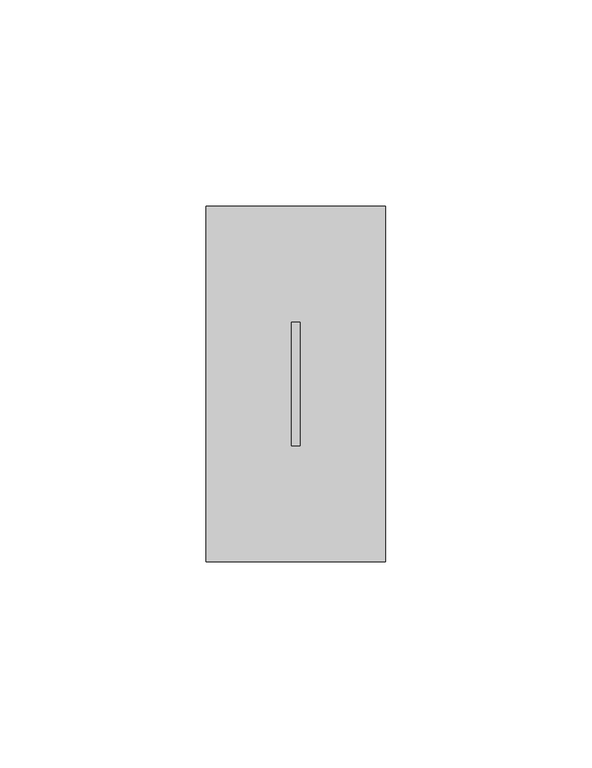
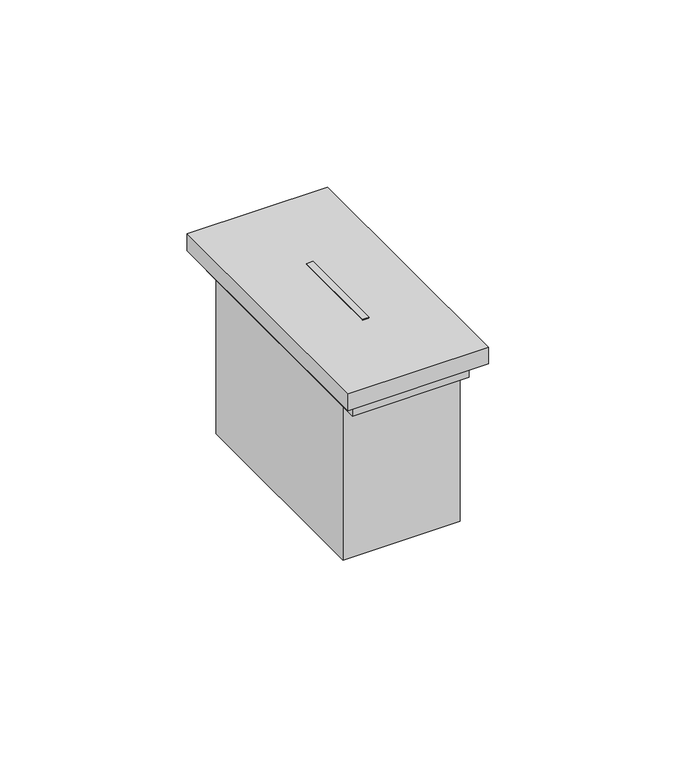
"""IFC4 building model written with IfcOpenShell, lengths in millimetres: proxy geometry, BT_LNsmart-DispositivoConnessoTapparelle : Dispositivo connesso tapparelle - Art. K4027C - 2M - Cover Bianco."""

from ifc_helpers import new_model, si_unit, frame, origin, origin_with_axes, place, context, project, spatial, polyline, outline, extrude, source, transform, mapped, element, save


def electrical_fixtures_1fd5a0d3(model_context):
    return source(origin(), model_context, "Body", "SweptSolid", [
        extrude(outline(polyline([(-18.0, 39.0), (18.0, 39.0), (18.0, -39.0), (-18.0, -39.0), (-18.0, 39.0)])), frame((0.0, 0.0, 50.0), z_axis=(0.0, 0.0, 1.0), x_axis=(1.0, 0.0, 0.0)), (0.0, 0.0, 1.0), 5.5),
        extrude(outline(polyline([(-18.0, 34.0), (18.0, 34.0), (18.0, -34.0), (-18.0, -34.0), (-18.0, 34.0)])), origin_with_axes(), (0.0, 0.0, 1.0), 50.0),
        extrude(outline(polyline([(-1.0, 15.0), (1.0, 15.0), (1.0, -15.0), (-1.0, -15.0), (-1.0, 15.0)])), frame((0.0, 0.0, 55.5), z_axis=(0.0, 0.0, 1.0), x_axis=(1.0, 0.0, 0.0)), (0.0, 0.0, 1.0), 5.5),
        extrude(outline(polyline([(-21.7, -43.0), (-21.7, 43.0), (21.7, 43.0), (21.7, -43.0), (-21.7, -43.0)]), holes=[polyline([(-1.0, 15.0), (-1.0, -15.0), (1.0, -15.0), (1.0, 15.0), (-1.0, 15.0)])]), frame((0.0, 0.0, 55.5), z_axis=(0.0, 0.0, 1.0), x_axis=(1.0, 0.0, 0.0)), (0.0, 0.0, 1.0), 5.5),
    ])


if __name__ == "__main__":
    model = new_model("IFC4")
    model_context = context("Model", 3, world=origin())
    ifc_project = project(units=[si_unit("LENGTHUNIT", "METRE", prefix="MILLI")], contexts=[model_context])
    site = spatial("IfcSite", under=ifc_project)
    building = spatial("IfcBuilding", under=site)
    placement = place(None, origin())
    electrical_fixtures_shape = electrical_fixtures_1fd5a0d3(model_context)
    element("IfcBuildingElementProxy", 1, Name="BT_LNsmart-DispositivoConnessoTapparelle : Dispositivo connesso tapparelle - Art. K4027C - 2M - Cover Bianco", ObjectType="BT_LNsmart-DispositivoConnessoTapparelle : Dispositivo connesso tapparelle - Art. K4027C - 2M - Cover Bianco", at=placement, inside=building, context=model_context, shape_type="MappedRepresentation", body=[
        mapped(electrical_fixtures_shape, transform((0.0, 0.0, 0.0), x_axis=(1.0, 0.0, 0.0), y_axis=(0.0, 1.0, 0.0), z_axis=(0.0, 0.0, 1.0))),
    ])
    save(model, "model.ifc")
